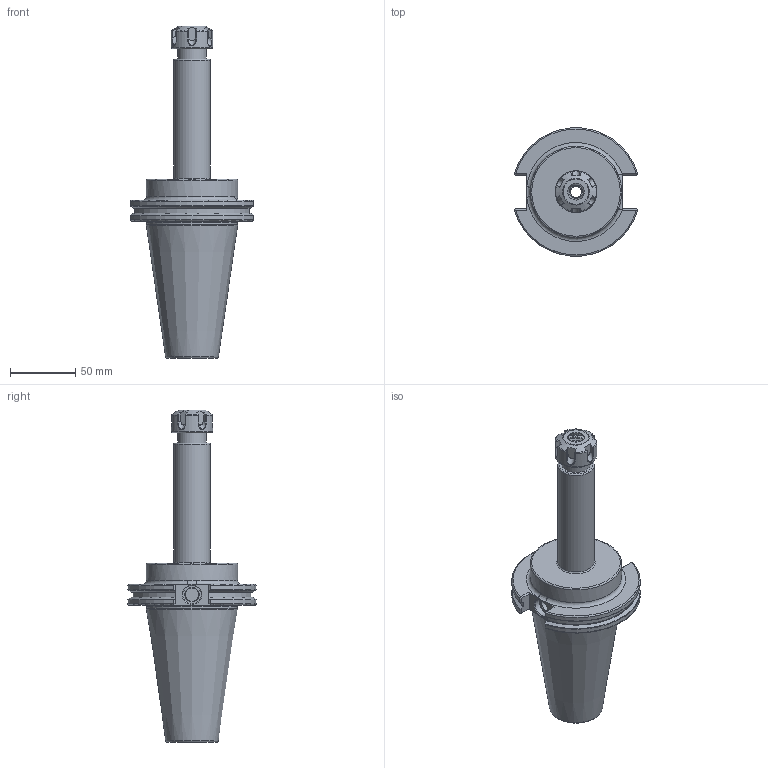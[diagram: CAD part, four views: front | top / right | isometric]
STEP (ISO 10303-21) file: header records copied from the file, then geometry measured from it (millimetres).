
FILE_DESCRIPTION(/* description */ (''),/* implementation_level */ '2;1');
FILE_NAME(/* name */ 'CAT50-ER16-6''''_asm1.prt.stp',/* time_stamp */ '2020-04-11T17:30:31+08:00',/* author */ (''),/* organization */ (''),/* preprocessor_version */ 'ST-DEVELOPER v16',/* originating_system */ 'SIEMENS PLM Software NX 10.0',/* authorisation */ '');
FILE_SCHEMA (('CONFIG_CONTROL_DESIGN'));
Length unit declared in the file: millimetre
Products named in the file (3): CAT50-ER16-6''; ER16UM压帽; CAT50-ER16-6''_asm1
Assembly tree (2 placements, depth 2):
  CAT50-ER16-6''_asm1
    ER16UM压帽
    CAT50-ER16-6''
Bounding box: 94.4 x 98.07 x 254 mm (x, y, z)
Volume: 434813.5 mm3; surface area: 64969.8 mm2
Topology: 2 solids, 2 shells, 190 faces, 471 edges, 296 vertices
Faces by surface type: plane 84, bspline 32, cylinder 30, torus 26, cone 18
Full cylindrical faces by diameter (mm): 8.5 x1, 10 x2, 10.5 x1, 12.8 x1, 14 x1, 16.7 x1, 19.5 x1, 20.45 x1, 22 x1, 22.225 x1, 22.3 x1, 26.19 x1, 28 x1, 32 x1, 69 x1, 69.85 x1
Entity records: 6719 total; most frequent: CARTESIAN_POINT 2514, ORIENTED_EDGE 830, DIRECTION 678, EDGE_CURVE 415, VERTEX_POINT 281, AXIS2_PLACEMENT_3D 268, EDGE_LOOP 246, ADVANCED_FACE 190
